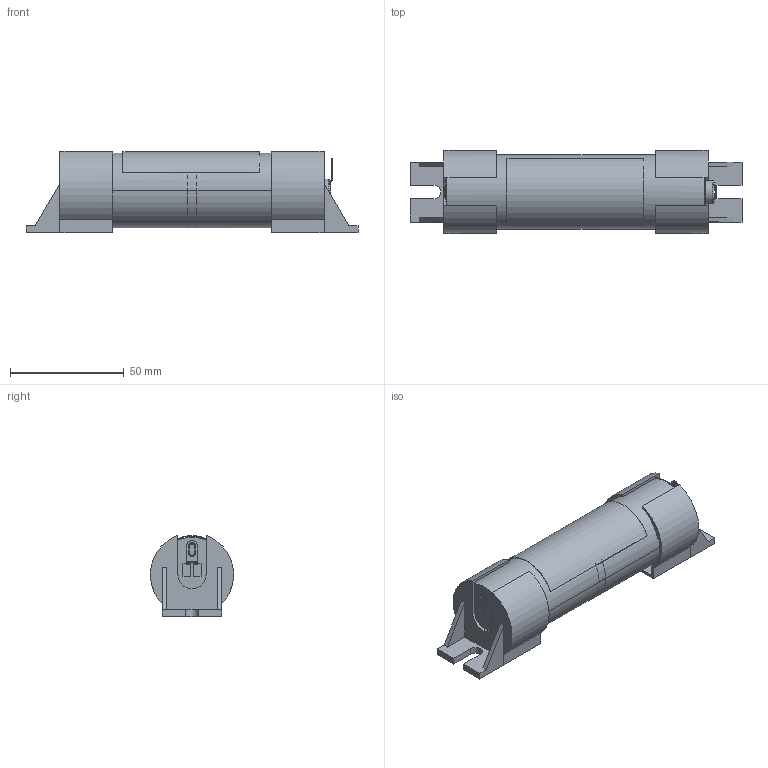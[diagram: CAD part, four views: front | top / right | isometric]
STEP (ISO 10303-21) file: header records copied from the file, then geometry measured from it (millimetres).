
FILE_DESCRIPTION((''),'2;1');
FILE_NAME('15012484Z_DMEC_89800092_2A-55','2018-07-11T13:45:41',('Emanuel.Wild'),(''),'CREO PARAMETRIC BY PTC INC, 2017380','CREO PARAMETRIC BY PTC INC, 2017380','');
FILE_SCHEMA(('AUTOMOTIVE_DESIGN { 1 0 10303 214 1 1 1 1 }'));
Length unit declared in the file: millimetre
Products named in the file (1): 15012484Z_DMEC_89800092_2A-55
Bounding box: 145.65 x 36.43 x 35.57 mm (x, y, z)
Volume: 104817.7 mm3; surface area: 31505 mm2
Topology: 2 solids, 5 shells, 246 faces, 632 edges, 398 vertices
Faces by surface type: plane 155, cylinder 57, extrusion 16, torus 12, bspline 6
Entity records: 8289 total; most frequent: CARTESIAN_POINT 1990, ORIENTED_EDGE 1256, DIRECTION 1204, EDGE_CURVE 632, VECTOR 410, VERTEX_POINT 398, AXIS2_PLACEMENT_3D 397, LINE 394
